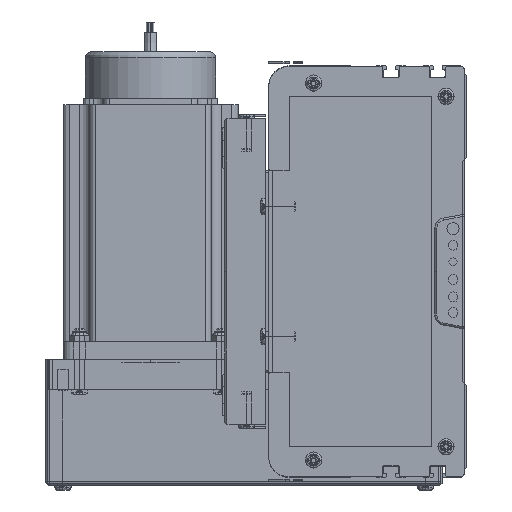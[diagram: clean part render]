
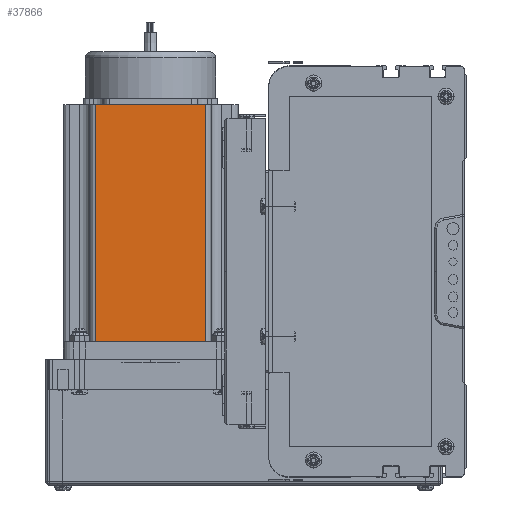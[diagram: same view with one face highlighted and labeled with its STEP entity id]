
A CAD part, left-side view. The second image highlights one B-rep face of the part: STEP entity #37866.
In plain terms, the highlighted planar face has unit normal (-1, 0, 0) as drawn and (0, -1, 0) by its records, which use the part's own axes.
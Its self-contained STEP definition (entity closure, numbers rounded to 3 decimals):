
#25183 = CARTESIAN_POINT ( 'NONE',  ( 69.74, 0., 116.5 ) ) ;
#25224 = DIRECTION ( 'NONE',  ( 1., 0., 0. ) ) ;
#25225 = VECTOR ( 'NONE', #25224, 1000. ) ;
#25226 = CARTESIAN_POINT ( 'NONE',  ( 0., 0., 0. ) ) ;
#25228 = LINE ( 'NONE', #25226, #25225 ) ;
#25232 = DIRECTION ( 'NONE',  ( 0., 0., 1. ) ) ;
#25233 = VECTOR ( 'NONE', #25232, 1000. ) ;
#25484 = DIRECTION ( 'NONE',  ( 0., 0., -1. ) ) ;
#25485 = VECTOR ( 'NONE', #25484, 1000. ) ;
#25498 = LINE ( 'NONE', #25183, #25233 ) ;
#25610 = CARTESIAN_POINT ( 'NONE',  ( 16.16, 0., 116.5 ) ) ;
#25611 = LINE ( 'NONE', #25610, #25485 ) ;
#26421 = DIRECTION ( 'NONE',  ( 0., 0., 1. ) ) ;
#26436 = AXIS2_PLACEMENT_3D ( 'NONE', #26492, #26487, #26421 ) ;
#26466 = FACE_OUTER_BOUND ( 'NONE', #37867, .T. ) ;
#26467 = CARTESIAN_POINT ( 'NONE',  ( 69.74, 0., 0. ) ) ;
#26470 = PLANE ( 'NONE',  #26436 ) ;
#26487 = DIRECTION ( 'NONE',  ( 0., 1., 0. ) ) ;
#26492 = CARTESIAN_POINT ( 'NONE',  ( 0., 0., 116.5 ) ) ;
#26683 = CARTESIAN_POINT ( 'NONE',  ( 16.16, 0., 0. ) ) ;
#26839 = CARTESIAN_POINT ( 'NONE',  ( 16.16, 0., 116.5 ) ) ;
#26840 = CARTESIAN_POINT ( 'NONE',  ( 69.74, 0., 116.5 ) ) ;
#28261 = DIRECTION ( 'NONE',  ( 1., 0., 0. ) ) ;
#28262 = VECTOR ( 'NONE', #28261, 1000. ) ;
#28263 = CARTESIAN_POINT ( 'NONE',  ( 0., 0., 116.5 ) ) ;
#28264 = LINE ( 'NONE', #28263, #28262 ) ;
#37679 = ORIENTED_EDGE ( 'NONE', *, *, #37743, .T. ) ;
#37743 = EDGE_CURVE ( 'NONE', #37903, #37916, #25611, .T. ) ;
#37760 = EDGE_CURVE ( 'NONE', #37863, #37902, #25498, .T. ) ;
#37763 = EDGE_CURVE ( 'NONE', #37916, #37863, #25228, .T. ) ;
#37768 = ORIENTED_EDGE ( 'NONE', *, *, #38492, .F. ) ;
#37863 = VERTEX_POINT ( 'NONE', #26467 ) ;
#37866 = ADVANCED_FACE ( 'NONE', ( #26466 ), #26470, .F. ) ;
#37867 = EDGE_LOOP ( 'NONE', ( #38563, #38495, #37768, #37679 ) ) ;
#37902 = VERTEX_POINT ( 'NONE', #26840 ) ;
#37903 = VERTEX_POINT ( 'NONE', #26839 ) ;
#37916 = VERTEX_POINT ( 'NONE', #26683 ) ;
#38492 = EDGE_CURVE ( 'NONE', #37903, #37902, #28264, .T. ) ;
#38495 = ORIENTED_EDGE ( 'NONE', *, *, #37760, .T. ) ;
#38563 = ORIENTED_EDGE ( 'NONE', *, *, #37763, .T. ) ;
